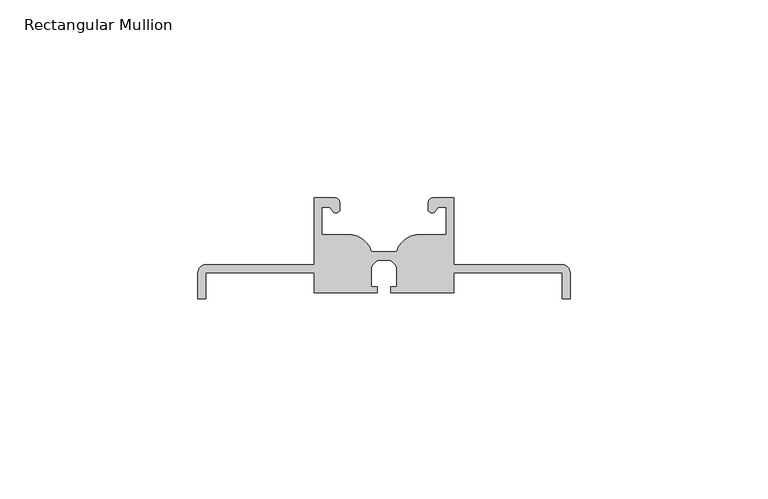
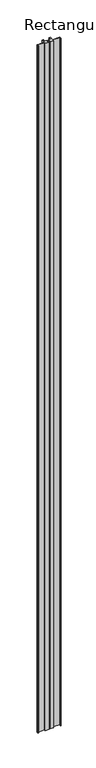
"""IFC4 building model written with IfcOpenShell, lengths in millimetres: member geometry, Rectangular Mullion : LD.0240_renson."""

from ifc_helpers import new_model, si_unit, point, frame, frame_2d, origin, place, context, project, spatial, polyline, circle_curve, trimmed, segment, composite_curve, outline, extrude, source, transform, mapped, element, save


def rectangular_mullion_d7a6ae85(model_context):
    return source(origin(), model_context, "Body", "SweptSolid", [
        extrude(outline(composite_curve([segment(polyline([(47.0, 7.6257936), (47.0, 1.0), (44.9912581, 1.0), (44.9912581, 7.611542), (17.6599764, 7.611542), (17.6599764, 2.5065082), (1.6945192, 2.5065082), (1.6945192, 4.0065082), (3.1741489, 4.0065082), (3.1741489, 9.0065082)]), True, "CONTINUOUS"), segment(trimmed(circle_curve(frame_2d((0.0039792, 7.6048296)), 3.4662197), [point((3.1741489, 9.0065082))], [point((1.4056577, 10.7749993))], True, "CARTESIAN"), True, "CONTINUOUS"), segment(polyline([(1.4056577, 10.7749993), (-1.4056577, 10.7749993)]), True, "CONTINUOUS"), segment(trimmed(circle_curve(frame_2d((-0.0039792, 7.6048296)), 3.4662197), [point((-1.4056577, 10.7749993))], [point((-3.1741489, 9.0065082))], True, "CARTESIAN"), True, "CONTINUOUS"), segment(polyline([(-3.1741489, 9.0065082), (-3.1741489, 4.0065082), (-1.6945192, 4.0065082), (-1.6945192, 2.5065082), (-17.6599764, 2.5065082), (-17.6599764, 7.611542), (-44.9912581, 7.611542), (-44.9912581, 1.0), (-47.0, 1.0), (-47.0, 7.6257936)]), True, "CONTINUOUS"), segment(trimmed(circle_curve(frame_2d((-44.9912581, 7.6257936)), 2.0087419), [point((-47.0, 7.6257936))], [point((-44.9912581, 9.6345355))], False, "CARTESIAN"), True, "CONTINUOUS"), segment(polyline([(-44.9912581, 9.6345355), (-17.6599764, 9.6345355), (-17.6599764, 26.5), (-12.3468461, 26.5)]), True, "CONTINUOUS"), segment(trimmed(circle_curve(frame_2d((-12.3468461, 25.3135005)), 1.1864995), [point((-12.3468461, 26.5))], [point((-11.1603466, 25.3135005))], False, "CARTESIAN"), True, "CONTINUOUS"), segment(polyline([(-11.1603466, 25.3135005), (-11.1603466, 23.3009057)]), True, "CONTINUOUS"), segment(trimmed(circle_curve(frame_2d((-12.1227149, 23.8515635)), 1.1087726), [point((-11.1603466, 23.3009057))], [point((-12.8614271, 23.0247134))], False, "CARTESIAN"), True, "CONTINUOUS"), segment(polyline([(-12.8614271, 23.0247134), (-13.7509755, 24.1232143), (-15.6734126, 24.1232143), (-15.6734126, 17.2531745), (-8.1368198, 17.2531745)]), True, "CONTINUOUS"), segment(trimmed(circle_curve(frame_2d((-9.367927, 10.8255058)), 6.5445053), [point((-8.1368198, 17.2531745))], [point((-3.1741489, 12.9391905))], False, "CARTESIAN"), True, "CONTINUOUS"), segment(polyline([(-3.1741489, 12.9391905), (3.1741489, 12.9391905)]), True, "CONTINUOUS"), segment(trimmed(circle_curve(frame_2d((9.367927, 10.8255058)), 6.5445053), [point((3.1741489, 12.9391905))], [point((8.1368198, 17.2531745))], False, "CARTESIAN"), True, "CONTINUOUS"), segment(polyline([(8.1368198, 17.2531745), (15.6734126, 17.2531745), (15.6734126, 24.1232143), (13.7509755, 24.1232143), (12.8614271, 23.0247134)]), True, "CONTINUOUS"), segment(trimmed(circle_curve(frame_2d((12.1227149, 23.8515635)), 1.1087726), [point((12.8614271, 23.0247134))], [point((11.1603466, 23.3009057))], False, "CARTESIAN"), True, "CONTINUOUS"), segment(polyline([(11.1603466, 23.3009057), (11.1603466, 25.3135005)]), True, "CONTINUOUS"), segment(trimmed(circle_curve(frame_2d((12.3468461, 25.3135005)), 1.1864995), [point((11.1603466, 25.3135005))], [point((12.3468461, 26.5))], False, "CARTESIAN"), True, "CONTINUOUS"), segment(polyline([(12.3468461, 26.5), (17.6599764, 26.5), (17.6599764, 9.6345355), (44.9912581, 9.6345355)]), True, "CONTINUOUS"), segment(trimmed(circle_curve(frame_2d((44.9912581, 7.6257936)), 2.0087419), [point((44.9912581, 9.6345355))], [point((47.0, 7.6257936))], False, "CARTESIAN"), True, "CONTINUOUS")], self_intersect=False)), frame((0.0, 0.0, -3000.0), z_axis=(0.0, 0.0, 1.0), x_axis=(1.0, 0.0, 0.0)), (0.0, 0.0, 1.0), 3000.0),
    ])


if __name__ == "__main__":
    model = new_model("IFC4")
    model_context = context("Model", 3, world=origin())
    ifc_project = project(units=[si_unit("LENGTHUNIT", "METRE", prefix="MILLI")], contexts=[model_context])
    site = spatial("IfcSite", under=ifc_project)
    building = spatial("IfcBuilding", under=site)
    placement = place(None, origin())
    rectangular_mullion_shape = rectangular_mullion_d7a6ae85(model_context)
    element("IfcMember", 1, ObjectType="Rectangular Mullion : LD.0240_renson", at=placement, inside=building, context=model_context, shape_type="MappedRepresentation", body=[
        mapped(rectangular_mullion_shape, transform((0.0, 0.0, 0.0), x_axis=(1.0, 0.0, 0.0), y_axis=(0.0, 1.0, 0.0), z_axis=(0.0, 0.0, 1.0))),
    ])
    save(model, "model.ifc")
